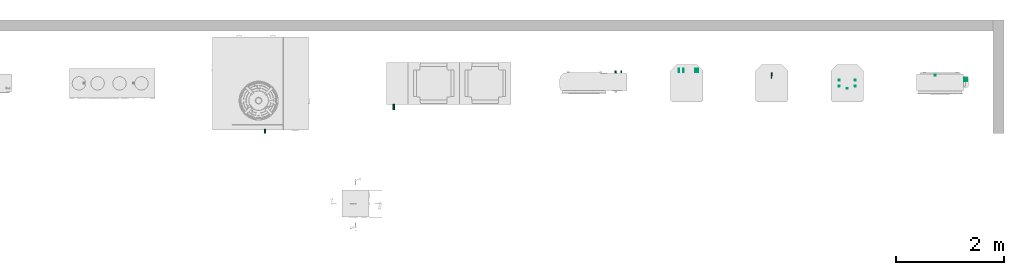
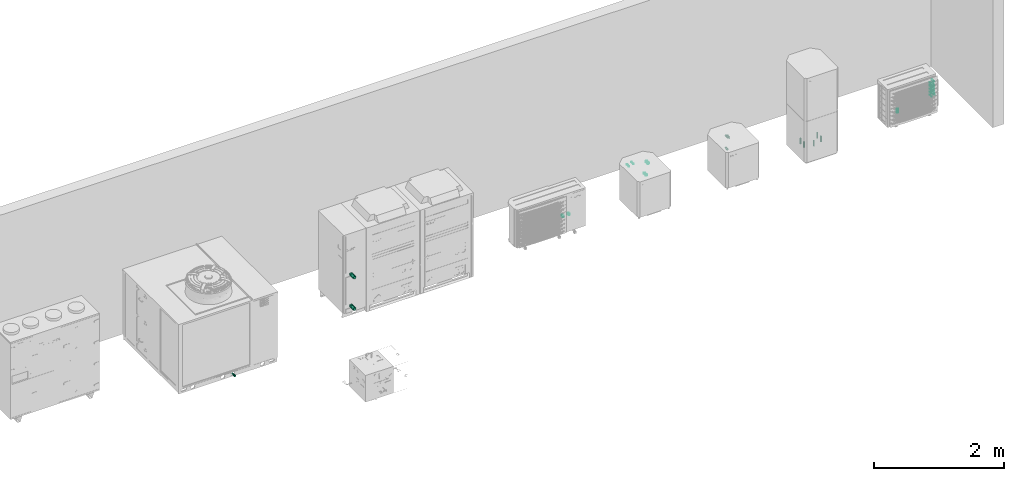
# One storey, part 3 of 3: 6 energy conversion devices, 1 flow storage device.
"""IFC2X3 building model written with IfcOpenShell, lengths in millimetres."""

from ifc_helpers import new_model, entity, si_unit, converted_unit, derived_unit, direction, frame, frame_2d, origin, origin_2d_with_axis, place, context, subcontext, project, spatial, circle, extrude, source, transform, mapped, material, type_object, type_shapes, element, save


model = new_model("IFC2X3")

# Units and contexts
model_context = context("Model", 3, precision=0.01, world=origin(), true_north=direction((6.12303176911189e-17, 1.0)))
body_context = subcontext(model_context, "Body", "Model", "MODEL_VIEW")
ifc_project = project(units=[si_unit("LENGTHUNIT", "METRE", prefix="MILLI"), si_unit("AREAUNIT", "SQUARE_METRE"), si_unit("VOLUMEUNIT", "CUBIC_METRE"), converted_unit("PLANEANGLEUNIT", "DEGREE", entity("IfcRatioMeasure", 0.0174532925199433), si_unit("PLANEANGLEUNIT", "RADIAN"), dimensions=[0, 0, 0, 0, 0, 0, 0]), si_unit("MASSUNIT", "GRAM", prefix="KILO"), derived_unit("MASSDENSITYUNIT", [(si_unit("MASSUNIT", "GRAM", prefix="KILO"), 1), (si_unit("LENGTHUNIT", "METRE"), -3)]), si_unit("TIMEUNIT", "SECOND"), si_unit("FREQUENCYUNIT", "HERTZ"), si_unit("THERMODYNAMICTEMPERATUREUNIT", "DEGREE_CELSIUS"), derived_unit("THERMALTRANSMITTANCEUNIT", [(si_unit("MASSUNIT", "GRAM", prefix="KILO"), 1), (si_unit("THERMODYNAMICTEMPERATUREUNIT", "KELVIN"), -1), (si_unit("TIMEUNIT", "SECOND"), -3)]), derived_unit("VOLUMETRICFLOWRATEUNIT", [(si_unit("LENGTHUNIT", "METRE"), 3), (si_unit("TIMEUNIT", "SECOND"), -1)]), si_unit("ELECTRICCURRENTUNIT", "AMPERE"), si_unit("ELECTRICVOLTAGEUNIT", "VOLT"), si_unit("POWERUNIT", "WATT"), si_unit("FORCEUNIT", "NEWTON", prefix="KILO"), si_unit("ILLUMINANCEUNIT", "LUX"), si_unit("LUMINOUSFLUXUNIT", "LUMEN"), si_unit("LUMINOUSINTENSITYUNIT", "CANDELA"), derived_unit("USERDEFINED", [(si_unit("MASSUNIT", "GRAM", prefix="KILO"), -1), (si_unit("LENGTHUNIT", "METRE"), -2), (si_unit("TIMEUNIT", "SECOND"), 3), (si_unit("LUMINOUSFLUXUNIT", "LUMEN"), 1)]), derived_unit("LINEARVELOCITYUNIT", [(si_unit("LENGTHUNIT", "METRE"), 1), (si_unit("TIMEUNIT", "SECOND"), -1)]), si_unit("PRESSUREUNIT", "PASCAL"), derived_unit("USERDEFINED", [(si_unit("LENGTHUNIT", "METRE"), -2), (si_unit("MASSUNIT", "GRAM", prefix="KILO"), 1), (si_unit("TIMEUNIT", "SECOND"), -2)])], contexts=[model_context])

# Site, building, storey
site_placement = place(None, origin())
site = spatial("IfcSite", under=ifc_project, at=site_placement, Name="Default", CompositionType="ELEMENT")
building_placement = place(site_placement, origin())
building = spatial("IfcBuilding", under=site, at=building_placement, CompositionType="ELEMENT")
storey_placement = place(building_placement, origin())
storey = spatial("IfcBuildingStorey", under=building, at=storey_placement, Name="Level 1", CompositionType="ELEMENT", Elevation=0.0)

# Energy conversion device
ifc_material_1 = material(Name="RSen_x_rgb 255 255 255 T00 pure white_gen")
unitary_equipment_type_1 = type_object("IfcUnitaryEquipmentType", Name="5mxm90a2v1b9 - split_daikin_5mxm-a9", PredefinedType="SPLITSYSTEM", material=ifc_material_1)
shared_shape_1 = source(origin(), body_context, "Body", "SweptSolid", [
    extrude(circle(Radius=9.0, at=frame_2d((2.24094861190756e-28, -3.38395977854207e-14), x_axis=(1.0, 0.0))), frame((10.5952722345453, 115.0, 0.000157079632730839), z_axis=(1.7453292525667e-05, 0.0, 1.0), x_axis=(0.0, -1.0, 0.0)), (0.0, 0.0, 1.0), 59.999999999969),
    extrude(circle(Radius=7.95, at=origin_2d_with_axis()), frame((595.595272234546, 0.0, 201.000157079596), z_axis=(0.0, 1.0, 0.0), x_axis=(0.0, 0.0, -1.0)), (0.0, 0.0, 1.0), 59.999999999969),
    extrude(circle(Radius=3.2, at=origin_2d_with_axis()), frame((553.595272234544, 0.0, 173.000157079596), z_axis=(0.0, 1.0, 0.0), x_axis=(0.0, 0.0, -1.0)), (0.0, 0.0, 1.0), 59.999999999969),
    extrude(circle(Radius=6.35, at=origin_2d_with_axis()), frame((595.595272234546, 0.0, 261.000157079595), z_axis=(0.0, 1.0, 0.0), x_axis=(0.0, 0.0, -1.0)), (0.0, 0.0, 1.0), 59.999999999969),
    extrude(circle(Radius=3.2, at=origin_2d_with_axis()), frame((553.595272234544, 0.0, 230.000157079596), z_axis=(0.0, 1.0, 0.0), x_axis=(0.0, 0.0, -1.0)), (0.0, 0.0, 1.0), 59.999999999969),
    extrude(circle(Radius=4.76, at=origin_2d_with_axis()), frame((595.595272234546, 0.0, 381.000157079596), z_axis=(0.0, 1.0, 0.0), x_axis=(0.0, 0.0, -1.0)), (0.0, 0.0, 1.0), 59.999999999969),
    extrude(circle(Radius=3.2, at=origin_2d_with_axis()), frame((553.595272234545, 0.0, 287.000157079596), z_axis=(0.0, 1.0, 0.0), x_axis=(0.0, 0.0, -1.0)), (0.0, 0.0, 1.0), 59.999999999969),
    extrude(circle(Radius=6.35, at=origin_2d_with_axis()), frame((595.595272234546, 0.0, 321.000157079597), z_axis=(0.0, 1.0, 0.0), x_axis=(0.0, 0.0, -1.0)), (0.0, 0.0, 1.0), 59.999999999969),
    extrude(circle(Radius=3.2, at=origin_2d_with_axis()), frame((553.595272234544, 0.0, 344.000157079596), z_axis=(0.0, 1.0, 0.0), x_axis=(1.0, 0.0, 0.0)), (0.0, 0.0, 1.0), 59.999999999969),
    extrude(circle(Radius=4.76, at=origin_2d_with_axis()), frame((595.595272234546, 0.0, 441.000157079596), z_axis=(0.0, 1.0, 0.0), x_axis=(-1.0, 0.0, 0.0)), (0.0, 0.0, 1.0), 59.999999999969),
    extrude(circle(Radius=3.2, at=origin_2d_with_axis()), frame((553.595272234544, 0.0, 401.000157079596), z_axis=(0.0, 1.0, 0.0), x_axis=(-1.0, 0.0, 0.0)), (0.0, 0.0, 1.0), 59.999999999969),
])
type_shapes(unitary_equipment_type_1, [shared_shape_1])
energy_conversion_device_1_placement = place(storey_placement, frame((23861.5153399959, -27982.3656639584, 13.9998429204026)))
element("IfcEnergyConversionDevice", 1, at=energy_conversion_device_1_placement, inside=storey, type_object=unitary_equipment_type_1, material=ifc_material_1, Name="RSen_55_ME_FB_outdoor unit - split - 5 rooms_daikin:5mxm90a2v1b9 - split_daikin_5mxm-a9", ObjectType="5mxm90a2v1b9 - split_daikin_5mxm-a9", context=body_context, shape_type="MappedRepresentation", body=[
    mapped(shared_shape_1, transform((0.0, 0.0, 0.0), scale=1.0)),
])

# Flow storage device
tank_type = type_object("IfcTankType", Name="ekhtsu260ac - domestic hot water tank_daikin_lxwxh 600x695x1610 mm", PredefinedType="NOTDEFINED", material=ifc_material_1)
shared_shape_2 = source(origin(), body_context, "Body", "SweptSolid", [
    extrude(circle(Radius=10.0, at=frame_2d((-1.47386243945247e-29, -3.38395977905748e-14), x_axis=(1.0, 0.0))), frame((311.595272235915, 163.09527223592, 0.0), z_axis=(0.0, 0.0, 1.0), x_axis=(0.0, -1.0, 0.0)), (0.0, 0.0, 1.0), 99.999999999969),
    extrude(circle(Radius=7.5, at=frame_2d((-1.47065402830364e-29, -3.37659332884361e-14), x_axis=(1.0, 0.0))), frame((161.595272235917, 9.09527223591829, 0.0), z_axis=(0.0, 0.0, 1.0), x_axis=(0.0, -1.0, 0.0)), (0.0, 0.0, 1.0), 99.999999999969),
    extrude(circle(Radius=10.0, at=frame_2d((-1.47386243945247e-29, -3.38395977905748e-14), x_axis=(1.0, 0.0))), frame((11.5952722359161, 163.09527223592, 0.0), z_axis=(0.0, 0.0, 1.0), x_axis=(0.0, -1.0, 0.0)), (0.0, 0.0, 1.0), 99.999999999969),
    extrude(circle(Radius=10.0, at=frame_2d((-1.47386243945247e-29, -3.38395977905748e-14), x_axis=(1.0, 0.0))), frame((311.595272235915, 54.0952722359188, 0.0), z_axis=(0.0, 0.0, 1.0), x_axis=(0.0, -1.0, 0.0)), (0.0, 0.0, 1.0), 99.999999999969),
    extrude(circle(Radius=10.0, at=frame_2d((-1.47386243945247e-29, -3.38395977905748e-14), x_axis=(1.0, 0.0))), frame((11.595272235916, 54.0952722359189, 0.0), z_axis=(0.0, 0.0, 1.0), x_axis=(0.0, -1.0, 0.0)), (0.0, 0.0, 1.0), 99.999999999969),
])
type_shapes(tank_type, [shared_shape_2])
flow_storage_device_placement = place(storey_placement, frame((22081.7830903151, -28121.9609361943, 103.0)))
element("IfcFlowStorageDevice", 2, at=flow_storage_device_placement, inside=storey, type_object=tank_type, material=ifc_material_1, Name="RSen_53_ME_FB_domestic hot water tank_daikin:ekhtsu260ac - domestic hot water tank_daikin_lxwxh 600x695x1610 mm", ObjectType="ekhtsu260ac - domestic hot water tank_daikin_lxwxh 600x695x1610 mm", context=body_context, shape_type="MappedRepresentation", body=[
    mapped(shared_shape_2, transform((0.0, 0.0, 0.0), scale=1.0)),
])

# Energy conversion devices
boiler_type = type_object("IfcBoilerType", Name="hxhd125a8v1b - high temperature hydrobox for vrv_daikin_lxwxh 600x694x708 mm", PredefinedType="WATER", material=ifc_material_1)
shared_shape_3 = source(origin(), body_context, "Body", "SweptSolid", [
    extrude(circle(Radius=6.35, at=origin_2d_with_axis()), frame((7.94527223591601, 0.0, 287.095272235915), z_axis=(0.0, 1.0, 0.0), x_axis=(0.0, 0.0, -1.0)), (0.0, 0.0, 1.0), 59.999999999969),
    extrude(circle(Radius=4.76, at=frame_2d((1.97435341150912e-29, -8.45989944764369e-15), x_axis=(1.0, 0.0))), frame((86.9452720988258, 0.0, 302.095272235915), z_axis=(0.0, 1.0, 0.0), x_axis=(0.0, 0.0, -1.0)), (0.0, 0.0, 1.0), 59.999999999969),
    extrude(circle(Radius=12.5, at=origin_2d_with_axis()), frame((316.945272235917, 0.0, 14.095272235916), z_axis=(0.0, 1.0, 0.0), x_axis=(0.0, 0.0, -1.0)), (0.0, 0.0, 1.0), 59.999999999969),
    extrude(circle(Radius=12.5, at=origin_2d_with_axis()), frame((351.945272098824, 0.0, 224.095272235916), z_axis=(0.0, 1.0, 0.0), x_axis=(0.0, 0.0, -1.0)), (0.0, 0.0, 1.0), 59.999999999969),
])
type_shapes(boiler_type, [shared_shape_3])
energy_conversion_device_2_placement = place(storey_placement, frame((19121.6967328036, -27811.8656639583, 335.904727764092)))
element("IfcEnergyConversionDevice", 3, at=energy_conversion_device_2_placement, inside=storey, type_object=boiler_type, material=ifc_material_1, Name="RSen_53_ME_FB_hydrobox_daikin:hxhd125a8v1b - high temperature hydrobox for vrv_daikin_lxwxh 600x694x708 mm", ObjectType="hxhd125a8v1b - high temperature hydrobox for vrv_daikin_lxwxh 600x694x708 mm", context=body_context, shape_type="MappedRepresentation", body=[
    mapped(shared_shape_3, transform((0.0, 0.0, 0.0), scale=1.0)),
])
chiller_type_1 = type_object("IfcChillerType", Name="ewya008d2v3p - heat pump_daikin_ewya-dv3p", PredefinedType="AIRCOOLED", material=ifc_material_1)
shared_shape_4 = source(origin(), body_context, "Body", "SweptSolid", [
    extrude(circle(Radius=12.5, at=frame_2d((-2.8361640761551e-29, -1.69197988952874e-14), x_axis=(1.0, 0.0))), frame((120.095272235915, 0.0, 14.095272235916), z_axis=(0.0, 1.0, 0.0), x_axis=(1.0, 0.0, 0.0)), (0.0, 0.0, 1.0), 30.999999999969),
    extrude(circle(Radius=12.5, at=frame_2d((-5.41605043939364e-29, -1.69197988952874e-14), x_axis=(1.0, 0.0))), frame((14.095272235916, 0.0, 14.095272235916), z_axis=(0.0, 1.0, 0.0), x_axis=(-1.0, 0.0, 0.0)), (0.0, 0.0, 1.0), 30.999999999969),
])
type_shapes(chiller_type_1, [shared_shape_4])
energy_conversion_device_3_placement = place(storey_placement, frame((17941.4912415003, -27819.8656639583, 82.9047277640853)))
element("IfcEnergyConversionDevice", 4, at=energy_conversion_device_3_placement, inside=storey, type_object=chiller_type_1, material=ifc_material_1, Name="RSen_55_ME_FB_air cooled chiller_daikin:ewya008d2v3p - heat pump_daikin_ewya-dv3p", ObjectType="ewya008d2v3p - heat pump_daikin_ewya-dv3p", context=body_context, shape_type="MappedRepresentation", body=[
    mapped(shared_shape_4, transform((0.0, 0.0, 0.0), scale=1.0)),
])
chiller_type_2 = type_object("IfcChillerType", Name="ewyq050bawn - heat pump_daikin_ewyq-bawn", PredefinedType="AIRCOOLED", material=ifc_material_1)
shared_shape_5 = source(origin(), body_context, "Body", "SweptSolid", [
    extrude(circle(Radius=25.0, at=frame_2d((1.4023551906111e-28, -1.35358391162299e-13), x_axis=(1.0, 0.0))), frame((26.5952722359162, 0.0, 618.595272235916), z_axis=(0.0, 1.0, 0.0), x_axis=(-1.0, 0.0, 0.0)), (0.0, 0.0, 1.0), 109.999999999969),
    extrude(circle(Radius=25.0, at=frame_2d((4.20904377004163e-28, -1.35358391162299e-13), x_axis=(1.0, 0.0))), frame((26.5952722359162, 0.0, 26.5952722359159), z_axis=(0.0, 1.0, 0.0), x_axis=(1.0, 0.0, 0.0)), (0.0, 0.0, 1.0), 109.999999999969),
])
type_shapes(chiller_type_2, [shared_shape_5])
energy_conversion_device_4_placement = place(storey_placement, frame((13820.9912415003, -28507.8656639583, 188.404727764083)))
element("IfcEnergyConversionDevice", 5, at=energy_conversion_device_4_placement, inside=storey, type_object=chiller_type_2, material=ifc_material_1, Name="RSen_55_ME_FB_air cooled chiller_daikin:ewyq050bawn - heat pump_daikin_ewyq-bawn", ObjectType="ewyq050bawn - heat pump_daikin_ewyq-bawn", context=body_context, shape_type="MappedRepresentation", body=[
    mapped(shared_shape_5, transform((0.0, 0.0, 0.0), scale=1.0)),
])
unitary_equipment_type_2 = type_object("IfcUnitaryEquipmentType", Name="uatyq20abay1 - rooftop_daikin_lxwxh 1790x1730x1600 mm", PredefinedType="ROOFTOPUNIT", material=ifc_material_1)
shared_shape_6 = source(origin(), body_context, "Body", "SweptSolid", [
    extrude(circle(Radius=12.5, at=frame_2d((-2.05042308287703e-28, -5.07593966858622e-14), x_axis=(1.0, 0.0))), frame((14.095272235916, 0.0, 14.0952722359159), z_axis=(0.0, 1.0, 0.0), x_axis=(1.0, 0.0, 0.0)), (0.0, 0.0, 1.0), 79.9999999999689),
])
type_shapes(unitary_equipment_type_2, [shared_shape_6])
energy_conversion_device_5_placement = place(storey_placement, frame((11456.283090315, -28942.8656639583, 35.904727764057)))
element("IfcEnergyConversionDevice", 6, at=energy_conversion_device_5_placement, inside=storey, type_object=unitary_equipment_type_2, material=ifc_material_1, Name="RSen_57_ME_FB_rooftop unit_daikin:uatyq20abay1 - rooftop_daikin_lxwxh 1790x1730x1600 mm", ObjectType="uatyq20abay1 - rooftop_daikin_lxwxh 1790x1730x1600 mm", context=body_context, shape_type="MappedRepresentation", body=[
    mapped(shared_shape_6, transform((0.0, 0.0, 0.0), scale=1.0)),
])
ifc_material_2 = material(Name="RSen_x_rgb 188 188 190 T00 gray_gen")
unitary_equipment_type_3 = type_object("IfcUnitaryEquipmentType", Name="ekhbrd016ady17 - altherma high temperature_daikin_lxwxh 600x694x708 mm", PredefinedType="AIRCONDITIONINGUNIT", material=ifc_material_2)
shared_shape_7 = source(origin(), body_context, "Body", "SweptSolid", [
    extrude(circle(Radius=12.5, at=frame_2d((5.35495635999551e-29, -2.01943071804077e-14), x_axis=(1.0, 0.0))), frame((14.095272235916, 50.0, 14.095272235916), z_axis=(0.0, 1.0, 0.0), x_axis=(0.0, 0.0, -1.0)), (0.0, 0.0, 1.0), 59.999999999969),
    extrude(circle(Radius=12.5, at=frame_2d((5.35495635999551e-29, -2.01943071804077e-14), x_axis=(1.0, 0.0))), frame((14.095272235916, 50.0, 244.095272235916), z_axis=(0.0, 1.0, 0.0), x_axis=(0.0, 0.0, -1.0)), (0.0, 0.0, 1.0), 59.999999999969),
    extrude(circle(Radius=7.95, at=frame_2d((3.40575224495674e-29, -1.28435793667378e-14), x_axis=(1.0, 0.0))), frame((14.0952722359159, 0.0, 283.095272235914), z_axis=(0.0, 1.0, 0.0), x_axis=(0.0, 0.0, -1.0)), (0.0, 0.0, 1.0), 59.999999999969),
    extrude(circle(Radius=4.76, at=frame_2d((2.03916738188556e-29, -7.6899921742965e-15), x_axis=(1.0, 0.0))), frame((14.0952722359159, 0.0, 255.095272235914), z_axis=(0.0, 1.0, 0.0), x_axis=(0.0, 0.0, -1.0)), (0.0, 0.0, 1.0), 59.999999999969),
])
type_shapes(unitary_equipment_type_3, [shared_shape_7])
energy_conversion_device_6_placement = place(storey_placement, frame((20829.4912415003, -27930.8656639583, 366.904727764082)))
element("IfcEnergyConversionDevice", 7, at=energy_conversion_device_6_placement, inside=storey, type_object=unitary_equipment_type_3, material=ifc_material_2, Name="RSen_53_ME_FB_indoor unit - altherma - air to water - wall mounted_daikin:ekhbrd016ady17 - altherma high temperature_daikin_lxwxh 600x694x708 mm", ObjectType="ekhbrd016ady17 - altherma high temperature_daikin_lxwxh 600x694x708 mm", context=body_context, shape_type="MappedRepresentation", body=[
    mapped(shared_shape_7, transform((0.0, 0.0, 0.0), scale=1.0)),
])

save(model, "model.ifc")
